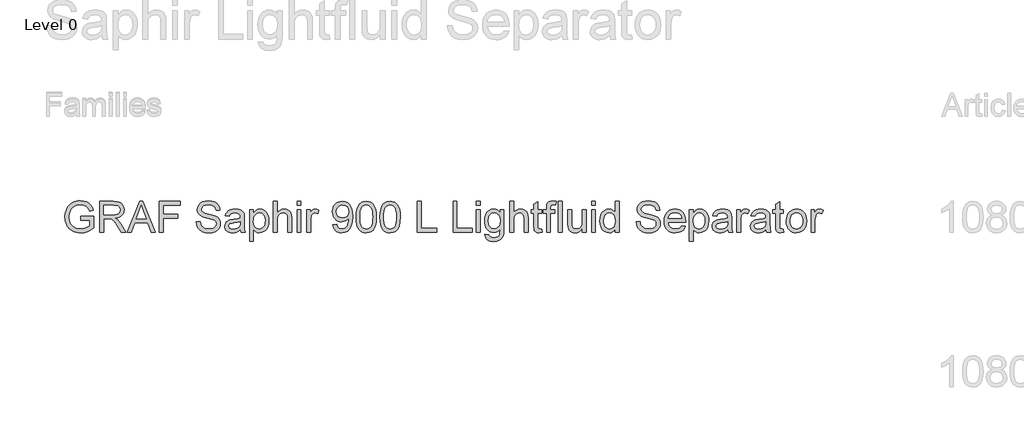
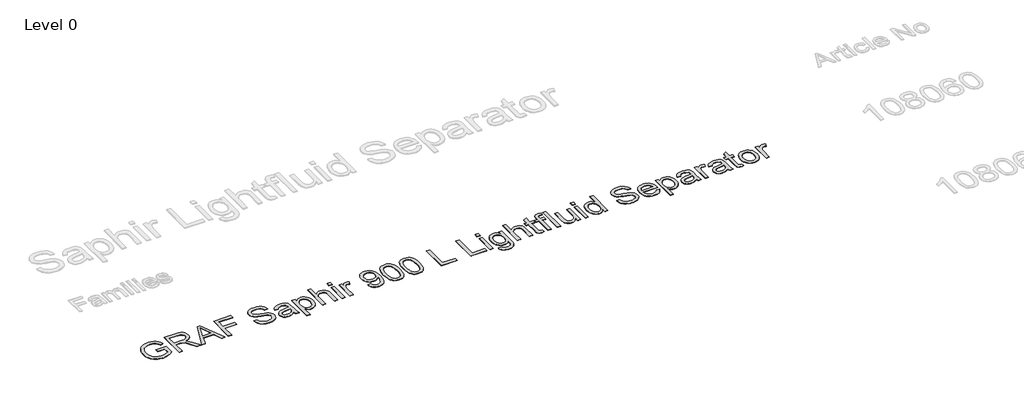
# One storey, part 6 of 9: 1 proxy.
"""IFC4 building model written with IfcOpenShell, lengths in millimetres."""

from ifc_helpers import new_model, si_unit, origin, origin_with_axes, place, context, project, spatial, polyline, outline, extrude, element, save

model = new_model("IFC4")

# Units and contexts
model_context = context("Model", 3, world=origin())
ifc_project = project(units=[si_unit("LENGTHUNIT", "METRE", prefix="MILLI")], contexts=[model_context])

# Site, building, storey
site = spatial("IfcSite", under=ifc_project)
building = spatial("IfcBuilding", under=site)
storey = spatial("IfcBuildingStorey", under=building, Name="Level 0", Elevation=0.0)

# Proxy
placement = place(None, origin())
element("IfcBuildingElementProxy", 1, Name="400mm Arial", ObjectType="400mm Arial", at=placement, inside=storey, context=model_context, shape_type="SweptSolid", body=[
    extrude(outline(polyline([(-14937.8149833, 10305.9861864), (-14937.8149833, 10356.2143415), (-14774.5734793, 10356.2143415), (-14774.5734793, 10206.0203856), (-14814.2434211, 10178.429236), (-14855.1641617, 10158.6371846), (-14897.2375993, 10146.717808), (-14940.3656318, 10142.7446824), (-14969.2167773, 10144.3235093), (-14996.7128907, 10149.05999), (-15022.8539722, 10156.9541245), (-15047.6400216, 10168.0059128), (-15070.2708957, 10182.0498079), (-15089.9464511, 10198.9202631), (-15106.6666877, 10218.6172783), (-15120.4316057, 10241.1408534), (-15131.182957, 10265.770553), (-15138.8624937, 10291.7859414), (-15143.4702157, 10319.1870187), (-15145.006123, 10347.9737848), (-15138.8870191, 10404.5662984), (-15131.2381393, 10431.3818302), (-15120.5297076, 10457.2102119), (-15106.9517963, 10480.9171408), (-15090.6944778, 10501.3683141), (-15071.7577521, 10518.5637317), (-15050.1416192, 10532.5033936), (-15026.3151286, 10543.2762047), (-15000.74733, 10550.9710698), (-14973.4382232, 10555.5879888), (-14944.3878083, 10557.1269618), (-14903.0133466, 10553.5585065), (-14865.8082141, 10542.8531404), (-14834.4769309, 10525.7834158), (-14810.7240167, 10503.1218849), (-14793.1515201, 10473.7771644), (-14780.3614894, 10436.6578711), (-14826.6655698, 10423.610323), (-14837.0030539, 10450.0855639), (-14849.5723554, 10470.0615563), (-14866.2006216, 10485.1201926), (-14888.7149997, 10496.8433655), (-14915.5581226, 10504.3849464), (-14945.1726232, 10506.8988067), (-14979.8393699, 10504.1887427), (-15009.478396, 10496.0585506), (-15033.9793369, 10483.5260373), (-15053.2318279, 10467.6090096), (-15068.0084214, 10449.1290708), (-15079.0816695, 10428.9078238), (-15090.8538933, 10390.9914528), (-15094.7779679, 10350.033924), (-15090.0568157, 10302.0007981), (-15075.8933588, 10262.4780091), (-15052.7167931, 10231.7475998), (-15020.9563142, 10210.091613), (-14983.78797, 10197.2525314), (-14944.3878083, 10192.9728375), (-14909.5984343, 10196.1979363), (-14875.6674516, 10205.8732328), (-14846.2001038, 10219.2028238), (-14824.8016344, 10233.390806), (-14824.8016344, 10305.9861864), (-14937.8149833, 10305.9861864)])), origin_with_axes(), (0.0, 0.0, 1.0), 5.0),
    extrude(outline(polyline([(-14692.9527273, 10149.0232018), (-14692.9527273, 10550.8484424), (-14519.8029349, 10550.8484424), (-14473.2658625, 10548.1383784), (-14439.4084563, 10540.0081863), (-14414.6622607, 10524.9986009), (-14395.4588206, 10501.6503569), (-14383.1347737, 10472.6980439), (-14379.0267581, 10440.8762513), (-14380.7282123, 10420.2380714), (-14385.832575, 10401.2921486), (-14394.3398462, 10384.0384831), (-14406.2500258, 10368.4770747), (-14421.716398, 10355.1045642), (-14440.892247, 10344.4175922), (-14463.7775727, 10336.4161588), (-14490.3723753, 10331.100264), (-14461.8247325, 10309.6159554), (-14421.1124584, 10257.9162724), (-14354.1088843, 10149.0232018), (-14412.4794942, 10149.0232018), (-14464.7677885, 10232.3116855), (-14502.5370066, 10287.4449339), (-14516.5778361, 10303.5213771), (-14529.0735612, 10313.4909791), (-14552.9613654, 10323.055911), (-14582.0976194, 10324.8217446), (-14642.7245723, 10324.8217446), (-14642.7245723, 10149.0232018), (-14692.9527273, 10149.0232018)]), holes=[polyline([(-14642.7245723, 10375.0498997), (-14530.2998345, 10375.0498997), (-14498.0120581, 10376.827996), (-14472.9592942, 10382.1622849), (-14454.0992106, 10391.4083857), (-14440.3894749, 10404.9219177), (-14432.0385536, 10421.268141), (-14429.2549132, 10439.0123159), (-14434.5646766, 10463.5132568), (-14450.493967, 10483.2562572), (-14462.6555327, 10490.8530204), (-14477.9011757, 10496.2792798), (-14517.6446939, 10500.6202873), (-14642.7245723, 10500.6202873), (-14642.7245723, 10375.0498997)])]), origin_with_axes(), (0.0, 0.0, 1.0), 5.0),
    extrude(outline(polyline([(-14337.9220765, 10149.0232018), (-14177.5255266, 10550.8484424), (-14134.7531133, 10550.8484424), (-13974.3565634, 10149.0232018), (-14027.4296726, 10149.0232018), (-14073.4394475, 10274.5935895), (-14238.9372943, 10274.5935895), (-14284.8489673, 10149.0232018), (-14337.9220765, 10149.0232018)]), holes=[polyline([(-14220.4941437, 10324.8217446), (-14091.7844963, 10324.8217446), (-14127.9840846, 10423.610323), (-14156.13932, 10500.6202873), (-14181.1552956, 10432.2432872), (-14220.4941437, 10324.8217446)])]), origin_with_axes(), (0.0, 0.0, 1.0), 5.0),
    extrude(outline(polyline([(-13920.6948431, 10149.0232018), (-13920.6948431, 10550.8484424), (-13650.7185095, 10550.8484424), (-13650.7185095, 10500.6202873), (-13870.466688, 10500.6202873), (-13870.466688, 10381.328419), (-13682.1111064, 10381.328419), (-13682.1111064, 10331.100264), (-13870.466688, 10331.100264), (-13870.466688, 10149.0232018), (-13920.6948431, 10149.0232018)])), origin_with_axes(), (0.0, 0.0, 1.0), 5.0),
    extrude(outline(polyline([(-13443.5273698, 10287.1506283), (-13393.2992148, 10287.1506283), (-13387.5357302, 10259.2774358), (-13377.112407, 10236.8734223), (-13360.8520228, 10219.0924592), (-13337.5773552, 10205.0884179), (-13309.1278143, 10196.0017326), (-13277.3428099, 10192.9728375), (-13249.3592528, 10195.2659686), (-13224.8583119, 10202.1453619), (-13205.0049469, 10213.034669), (-13190.9641174, 10227.3575413), (-13182.6131961, 10243.8018665), (-13179.8295557, 10261.0555321), (-13181.9142203, 10277.8677393), (-13188.1682143, 10292.3990781), (-13200.8724058, 10304.7967013), (-13222.3076634, 10315.2077618), (-13295.4426041, 10334.3866765), (-13343.4512044, 10347.0786053), (-13374.169351, 10359.1573975), (-13399.173064, 10376.0554438), (-13416.8927134, 10396.5342082), (-13427.4509267, 10420.1522323), (-13430.9703311, 10446.4680577), (-13426.6170608, 10475.8863545), (-13413.55725, 10503.3180886), (-13392.1342551, 10526.5682307), (-13362.6914328, 10543.4417516), (-13327.3502358, 10553.7056592), (-13288.2321169, 10557.1269618), (-13245.8521111, 10553.5462437), (-13208.769606, 10542.8040895), (-13178.3089768, 10525.1212282), (-13155.7945987, 10500.7183892), (-13141.5453027, 10471.1161513), (-13135.87992, 10437.8350935), (-13186.1080751, 10437.8350935), (-13195.3296504, 10467.8052134), (-13203.6928345, 10479.6632764), (-13214.557616, 10489.4366747), (-13244.6013123, 10502.5332737), (-13286.2700796, 10506.8988067), (-13328.9198656, 10502.5823247), (-13345.2231694, 10497.1867221), (-13358.178747, 10489.6328784), (-13375.1013187, 10470.5765911), (-13380.742176, 10447.9395856), (-13376.744525, 10428.6380436), (-13364.7515719, 10413.1134234), (-13336.4001328, 10399.2320095), (-13282.7384125, 10385.0562899), (-13227.3599095, 10371.5918089), (-13193.8581224, 10359.8441105), (-13165.2246405, 10341.621689), (-13145.2486482, 10319.1318364), (-13133.5132125, 10292.6198073), (-13129.6014006, 10262.3308563), (-13134.1018237, 10231.3674551), (-13147.6030929, 10202.2434638), (-13169.5533853, 10177.1784372), (-13199.4008778, 10158.39193), (-13235.2938978, 10146.6564943), (-13275.3807726, 10142.7446824), (-13324.5911208, 10146.9630626), (-13365.0949285, 10159.6182033), (-13397.3581794, 10180.7591553), (-13421.8468576, 10210.4349695), (-13437.5676815, 10246.5855069), (-13443.5273698, 10287.1506283)])), origin_with_axes(), (0.0, 0.0, 1.0), 5.0),
    extrude(outline(polyline([(-12872.1821059, 10186.6943181), (-12896.1802747, 10166.1174519), (-12920.889682, 10152.6529708), (-12946.8744136, 10145.2217545), (-12974.6985552, 10142.7446824), (-12997.0627148, 10144.2346045), (-13016.6738908, 10148.7043708), (-13033.5320833, 10156.1539812), (-13047.6372921, 10166.5834357), (-13058.7749195, 10179.3305469), (-13066.7303676, 10193.733127), (-13071.5036365, 10209.7911761), (-13073.0947262, 10227.5046941), (-13070.6912305, 10248.3268151), (-13063.4807434, 10267.2359496), (-13052.3584444, 10283.4227574), (-13038.219513, 10296.077898), (-13021.6035096, 10305.6428299), (-13003.0499943, 10312.5590114), (-12959.5908679, 10320.112855), (-12908.2345414, 10328.0591061), (-12872.4764115, 10337.3787834), (-12872.1821059, 10348.562396), (-12875.6401966, 10370.9786722), (-12886.0144689, 10385.6449011), (-12909.21556, 10396.5342082), (-12941.5401247, 10400.1639772), (-12971.4611936, 10397.7482188), (-12992.356891, 10390.5009435), (-13006.6061869, 10377.0977761), (-13016.5880517, 10356.2143415), (-13066.8162068, 10362.4928609), (-13058.0974035, 10389.9613832), (-13045.0866436, 10411.5437936), (-13026.5699165, 10428.0494324), (-13001.3332116, 10440.2876401), (-12970.4679122, 10447.8660092), (-12935.0654016, 10450.3921323), (-12901.1098934, 10448.1603148), (-12874.1931941, 10441.4648625), (-12853.8983707, 10431.3971586), (-12839.8084903, 10419.0485863), (-12830.4642876, 10403.7814835), (-12824.4064974, 10384.9581881), (-12821.9539508, 10341.0085524), (-12821.9539508, 10278.5176641), (-12819.4033023, 10191.2560549), (-12809.396912, 10149.0232018), (-12859.6250671, 10149.0232018), (-12867.6694201, 10166.4853339), (-12872.1821059, 10186.6943181)]), holes=[polyline([(-12872.1821059, 10287.1506283), (-12905.9291476, 10278.7874443), (-12953.2142467, 10271.7486354), (-12996.4281184, 10263.6061806), (-13007.6730447, 10258.0388997), (-13015.9994405, 10250.3624288), (-13021.1497884, 10241.1653789), (-13022.8665711, 10231.0363613), (-13019.1264375, 10216.1003523), (-13007.9060366, 10203.8621446), (-12989.4506232, 10195.6951643), (-12964.0054519, 10192.9728375), (-12937.0274389, 10195.9772071), (-12913.1886856, 10204.990316), (-12893.8626181, 10218.270856), (-12880.4226626, 10234.0775191), (-12874.4629742, 10250.3624288), (-12872.4764115, 10272.9258578), (-12872.1821059, 10287.1506283)])]), origin_with_axes(), (0.0, 0.0, 1.0), 5.0),
    extrude(outline(polyline([(-12752.8902376, 10036.0098529), (-12752.8902376, 10444.1136129), (-12702.6620825, 10444.1136129), (-12702.6620825, 10394.8664765), (-12686.279071, 10419.1589509), (-12667.9340221, 10436.5107183), (-12646.5478155, 10446.9217788), (-12621.0413305, 10450.3921323), (-12587.0735596, 10445.5360899), (-12557.3732199, 10430.9679629), (-12533.19111, 10407.570668), (-12515.7780289, 10376.227122), (-12505.2566039, 10339.2181933), (-12501.7494622, 10298.8247503), (-12505.710325, 10255.868396), (-12517.5929134, 10217.4492529), (-12537.0170828, 10185.5170957), (-12563.6026883, 10162.021699), (-12594.5660896, 10147.5639366), (-12627.1236461, 10142.7446824), (-12650.2143727, 10145.9697813), (-12670.8280272, 10155.6450777), (-12688.4741002, 10170.2499929), (-12702.6620825, 10188.263948), (-12702.6620825, 10036.0098529), (-12752.8902376, 10036.0098529)]), holes=[polyline([(-12702.6620825, 10294.2139626), (-12697.2296917, 10249.1852064), (-12690.4392032, 10231.7475998), (-12680.9325193, 10217.6945076), (-12656.8852996, 10199.153255), (-12643.1234473, 10194.5179419), (-12628.2027667, 10192.9728375), (-12613.0674882, 10194.5731242), (-12599.0542499, 10199.3739842), (-12586.1630517, 10207.3754176), (-12574.3938935, 10218.5774244), (-12564.5867726, 10233.13942), (-12557.5816863, 10251.2208201), (-12553.3786345, 10272.8216246), (-12551.9776173, 10297.9418335), (-12557.4467963, 10342.725335), (-12564.28327, 10360.2978317), (-12573.8543332, 10374.6574922), (-12597.8647648, 10393.7873559), (-12611.4702673, 10398.5698219), (-12626.1426275, 10400.1639772), (-12640.7690025, 10398.4686543), (-12654.5308548, 10393.3826858), (-12679.4609913, 10373.0388114), (-12689.6114687, 10357.9403212), (-12696.8618097, 10339.7700163), (-12701.2120143, 10318.5278968), (-12702.6620825, 10294.2139626)])]), origin_with_axes(), (0.0, 0.0, 1.0), 5.0),
    extrude(outline(polyline([(-12445.2427877, 10149.0232018), (-12445.2427877, 10550.8484424), (-12395.0146327, 10550.8484424), (-12395.0146327, 10403.1070332), (-12376.5653506, 10423.794264), (-12355.8474629, 10438.5708575), (-12332.8609696, 10447.4368136), (-12307.6058706, 10450.3921323), (-12277.2678687, 10447.1670334), (-12251.197298, 10437.491737), (-12230.6694827, 10422.1265323), (-12216.959747, 10401.8317089), (-12209.2342251, 10373.9462537), (-12206.6590511, 10335.8091535), (-12206.6590511, 10149.0232018), (-12256.8872062, 10149.0232018), (-12256.8872062, 10330.6097546), (-12260.8848572, 10362.0514025), (-12272.8778103, 10383.5847619), (-12292.2038777, 10396.0191734), (-12318.2008721, 10400.1639772), (-12339.4276632, 10397.368074), (-12359.3546046, 10388.9803645), (-12375.8602434, 10375.8101891), (-12386.8231269, 10358.6668881), (-12392.9667562, 10335.8827299), (-12395.0146327, 10305.7899827), (-12395.0146327, 10149.0232018), (-12445.2427877, 10149.0232018)])), origin_with_axes(), (0.0, 0.0, 1.0), 5.0),
    extrude(outline(polyline([(-12137.5953379, 10500.6202873), (-12137.5953379, 10550.8484424), (-12087.3671828, 10550.8484424), (-12087.3671828, 10500.6202873), (-12137.5953379, 10500.6202873)])), origin_with_axes(), (0.0, 0.0, 1.0), 5.0),
    extrude(outline(polyline([(-12137.5953379, 10149.0232018), (-12137.5953379, 10444.1136129), (-12087.3671828, 10444.1136129), (-12087.3671828, 10149.0232018), (-12137.5953379, 10149.0232018)])), origin_with_axes(), (0.0, 0.0, 1.0), 5.0),
    extrude(outline(polyline([(-12012.0249502, 10149.0232018), (-12012.0249502, 10444.1136129), (-11968.0753145, 10444.1136129), (-11968.0753145, 10400.4582828), (-11951.8394558, 10425.7685641), (-11936.8789213, 10440.6800476), (-11921.8693359, 10447.9641111), (-11905.4863244, 10450.3921323), (-11880.4703487, 10446.5171086), (-11855.0619656, 10434.8920375), (-11871.8373846, 10389.8632813), (-11889.4957204, 10397.5888032), (-11907.1540561, 10400.1639772), (-11922.1513788, 10397.6869051), (-11935.5545461, 10390.2556888), (-11946.3825395, 10378.434414), (-11953.6543403, 10362.7871665), (-11959.7611814, 10334.730033), (-11961.7967951, 10304.122251), (-11961.7967951, 10149.0232018), (-12012.0249502, 10149.0232018)])), origin_with_axes(), (0.0, 0.0, 1.0), 5.0),
    extrude(outline(polyline([(-11672.9849035, 10249.479512), (-11622.7567484, 10255.7580314), (-11614.1728352, 10227.2471767), (-11600.1933193, 10207.8352701), (-11581.1615575, 10196.6884457), (-11557.420906, 10192.9728375), (-11536.1205385, 10195.3640705), (-11516.7576828, 10202.5377694), (-11500.6689769, 10213.7091193), (-11489.1910587, 10228.0933053), (-11472.7589962, 10271.7486354), (-11467.3143427, 10300.1491254), (-11465.4994582, 10330.0211434), (-11465.7937638, 10339.83133), (-11483.1945821, 10318.5922761), (-11505.9664776, 10301.7678062), (-11532.466244, 10290.8049228), (-11561.0506751, 10287.1506283), (-11584.9108881, 10289.3824457), (-11606.8519835, 10296.077898), (-11626.873961, 10307.2369852), (-11644.9768209, 10322.8597073), (-11659.9772092, 10342.1305925), (-11670.6917724, 10364.234169), (-11677.1205102, 10389.1704369), (-11679.2634228, 10416.9393962), (-11677.016277, 10445.6341918), (-11670.2748394, 10471.3859315), (-11659.0391102, 10494.1946152), (-11643.3090892, 10514.0602429), (-11624.1945538, 10530.1550802), (-11602.8052815, 10541.6513925), (-11579.1412722, 10548.54918), (-11553.2025258, 10550.8484424), (-11515.739876, 10545.5999926), (-11481.637215, 10529.8546432), (-11453.1140977, 10504.3972092), (-11432.3900786, 10470.0125053), (-11419.7717262, 10422.4821516), (-11415.5656087, 10357.5877676), (-11419.7594634, 10288.7815718), (-11432.3410277, 10235.598098), (-11453.1999368, 10195.6338506), (-11466.692009, 10179.7076259), (-11482.2258262, 10166.4853339), (-11499.4886888, 10156.0987989), (-11518.1678972, 10148.6798453), (-11559.7753508, 10142.7446824), (-11582.3326485, 10144.4951876), (-11602.7194424, 10149.7467031), (-11620.9357325, 10158.4992289), (-11636.9815189, 10170.752765), (-11650.4521313, 10186.1762177), (-11660.9428995, 10204.438493), (-11668.4538235, 10225.5395911), (-11672.9849035, 10249.479512)]), holes=[polyline([(-11465.7937638, 10418.1166186), (-11471.2138918, 10452.1579658), (-11477.9890519, 10466.2355835), (-11487.474276, 10478.3511639), (-11499.2035803, 10488.0939054), (-11512.7109809, 10495.0530065), (-11545.060071, 10500.6202873), (-11562.6693558, 10499.1211682), (-11578.610909, 10494.6238108), (-11592.8847304, 10487.1282152), (-11605.4908201, 10476.6343813), (-11615.7915159, 10463.7554457), (-11623.1491558, 10449.1045453), (-11627.5637398, 10432.6816799), (-11629.0352678, 10414.4868495), (-11623.4679869, 10383.4498719), (-11616.5088858, 10370.3318131), (-11606.7661443, 10358.8140409), (-11594.6444326, 10349.4361157), (-11580.5484208, 10342.7375977), (-11546.4334971, 10337.3787834), (-11514.3419244, 10342.7375977), (-11488.5043456, 10358.8140409), (-11478.5684661, 10370.5586736), (-11471.4714092, 10384.3573141), (-11465.7937638, 10418.1166186)])]), origin_with_axes(), (0.0, 0.0, 1.0), 5.0),
    extrude(outline(polyline([(-11371.615973, 10346.6984606), (-11367.9248903, 10411.0164961), (-11356.8516423, 10462.3115089), (-11338.5065934, 10501.3683141), (-11326.6485305, 10516.6016944), (-11313.0001084, 10528.9717264), (-11297.5153421, 10538.5427897), (-11280.1482463, 10545.3792634), (-11239.7670659, 10550.8484424), (-11208.8159274, 10547.6110809), (-11181.1021504, 10537.8989962), (-11157.9255847, 10522.0923331), (-11140.58608, 10500.5712364), (-11127.489481, 10473.519647), (-11117.0416323, 10441.121506), (-11110.1990272, 10399.9800362), (-11107.9181589, 10346.6984606), (-11111.5724533, 10282.7483071), (-11122.5353368, 10231.5759215), (-11140.770021, 10192.4823282), (-11152.6004929, 10177.2029627), (-11166.2397178, 10164.7685512), (-11181.7428782, 10155.1331086), (-11199.1651564, 10148.2506496), (-11239.7670659, 10142.7446824), (-11267.431792, 10145.1359154), (-11291.9572583, 10152.3096143), (-11313.343465, 10164.2657792), (-11331.5904119, 10181.0044099), (-11349.1015949, 10211.262704), (-11361.6095827, 10248.9644772), (-11369.1143754, 10294.1097294), (-11371.615973, 10346.6984606)]), holes=[polyline([(-11321.3878179, 10346.7965624), (-11319.91629, 10303.1320353), (-11315.501706, 10267.7877726), (-11308.1440661, 10240.7637744), (-11297.8433702, 10222.0600406), (-11285.3844333, 10209.3343892), (-11271.5520703, 10200.2446383), (-11256.3462812, 10194.7907877), (-11239.7670659, 10192.9728375), (-11223.1878507, 10194.7969191), (-11207.9820616, 10200.2691637), (-11194.1496985, 10209.3895715), (-11181.6907616, 10222.1581425), (-11171.3900658, 10240.8925331), (-11164.0324259, 10267.9103999), (-11159.6178419, 10303.2117431), (-11158.1463139, 10346.7965624), (-11159.568791, 10389.305327), (-11163.8362221, 10424.0272559), (-11170.9486074, 10450.9623494), (-11180.9059467, 10470.1106072), (-11193.1564171, 10483.4585923), (-11207.1481957, 10492.9928673), (-11222.8812824, 10498.7134323), (-11240.3556771, 10500.6202873), (-11256.8490532, 10498.9402929), (-11271.797325, 10493.9003096), (-11285.2004923, 10485.5003373), (-11297.0585553, 10473.7403762), (-11307.7026077, 10452.8937298), (-11315.3055023, 10424.7875454), (-11319.867239, 10389.4218229), (-11321.3878179, 10346.7965624)])]), origin_with_axes(), (0.0, 0.0, 1.0), 5.0),
    extrude(outline(polyline([(-11063.9685232, 10346.6984606), (-11060.2774405, 10411.0164961), (-11049.2041924, 10462.3115089), (-11030.8591436, 10501.3683141), (-11019.0010806, 10516.6016944), (-11005.3526586, 10528.9717264), (-10989.8678923, 10538.5427897), (-10972.5007964, 10545.3792634), (-10932.1196161, 10550.8484424), (-10901.1684776, 10547.6110809), (-10873.4547006, 10537.8989962), (-10850.2781349, 10522.0923331), (-10832.9386302, 10500.5712364), (-10819.8420312, 10473.519647), (-10809.3941825, 10441.121506), (-10802.5515774, 10399.9800362), (-10800.270709, 10346.6984606), (-10803.9250035, 10282.7483071), (-10814.887887, 10231.5759215), (-10833.1225712, 10192.4823282), (-10844.953043, 10177.2029627), (-10858.592268, 10164.7685512), (-10874.0954284, 10155.1331086), (-10891.5177066, 10148.2506496), (-10932.1196161, 10142.7446824), (-10959.7843421, 10145.1359154), (-10984.3098085, 10152.3096143), (-11005.6960151, 10164.2657792), (-11023.9429621, 10181.0044099), (-11041.4541451, 10211.262704), (-11053.9621329, 10248.9644772), (-11061.4669256, 10294.1097294), (-11063.9685232, 10346.6984606)]), holes=[polyline([(-11013.7403681, 10346.7965624), (-11012.2688401, 10303.1320353), (-11007.8542562, 10267.7877726), (-11000.4966163, 10240.7637744), (-10990.1959204, 10222.0600406), (-10977.7369835, 10209.3343892), (-10963.9046205, 10200.2446383), (-10948.6988314, 10194.7907877), (-10932.1196161, 10192.9728375), (-10915.5404009, 10194.7969191), (-10900.3346117, 10200.2691637), (-10886.5022487, 10209.3895715), (-10874.0433118, 10222.1581425), (-10863.7426159, 10240.8925331), (-10856.384976, 10267.9103999), (-10851.9703921, 10303.2117431), (-10850.4988641, 10346.7965624), (-10851.9213412, 10389.305327), (-10856.1887723, 10424.0272559), (-10863.3011575, 10450.9623494), (-10873.2584969, 10470.1106072), (-10885.5089673, 10483.4585923), (-10899.5007459, 10492.9928673), (-10915.2338325, 10498.7134323), (-10932.7082273, 10500.6202873), (-10949.2016034, 10498.9402929), (-10964.1498751, 10493.9003096), (-10977.5530425, 10485.5003373), (-10989.4111055, 10473.7403762), (-11000.0551579, 10452.8937298), (-11007.6580524, 10424.7875454), (-11012.2197892, 10389.4218229), (-11013.7403681, 10346.7965624)])]), origin_with_axes(), (0.0, 0.0, 1.0), 5.0),
    extrude(outline(polyline([(-10580.5225306, 10149.0232018), (-10580.5225306, 10550.8484424), (-10530.2943755, 10550.8484424), (-10530.2943755, 10199.2513569), (-10329.3817552, 10199.2513569), (-10329.3817552, 10149.0232018), (-10580.5225306, 10149.0232018)])), origin_with_axes(), (0.0, 0.0, 1.0), 5.0),
    extrude(outline(polyline([(-10115.9120961, 10149.0232018), (-10115.9120961, 10550.8484424), (-10065.6839411, 10550.8484424), (-10065.6839411, 10199.2513569), (-9864.7713208, 10199.2513569), (-9864.7713208, 10149.0232018), (-10115.9120961, 10149.0232018)])), origin_with_axes(), (0.0, 0.0, 1.0), 5.0),
    extrude(outline(polyline([(-9814.5431657, 10500.6202873), (-9814.5431657, 10550.8484424), (-9764.3150106, 10550.8484424), (-9764.3150106, 10500.6202873), (-9814.5431657, 10500.6202873)])), origin_with_axes(), (0.0, 0.0, 1.0), 5.0),
    extrude(outline(polyline([(-9814.5431657, 10149.0232018), (-9814.5431657, 10444.1136129), (-9764.3150106, 10444.1136129), (-9764.3150106, 10149.0232018), (-9814.5431657, 10149.0232018)])), origin_with_axes(), (0.0, 0.0, 1.0), 5.0),
    extrude(outline(polyline([(-9701.5298168, 10123.9091243), (-9651.3016617, 10117.6306049), (-9645.7589063, 10101.9343064), (-9635.016752, 10091.1431012), (-9613.9003255, 10082.7553918), (-9586.2601249, 10079.9594886), (-9556.7805144, 10083.1232738), (-9534.8547475, 10092.6146292), (-9519.6489584, 10107.8204184), (-9510.3292811, 10128.1275045), (-9506.8957159, 10186.6943181), (-9523.6098212, 10170.2132047), (-9542.2614383, 10158.4409809), (-9562.8505673, 10151.3776466), (-9585.3772082, 10149.0232018), (-9612.9162412, 10151.7639227), (-9637.1627303, 10159.9860853), (-9658.1166757, 10173.6896896), (-9675.7780771, 10192.8747356), (-9689.7913154, 10215.8918858), (-9699.8007714, 10241.0918025), (-9705.806445, 10268.4744857), (-9707.8083362, 10298.0399353), (-9704.2153553, 10338.5927939), (-9693.4364129, 10375.8837655), (-9675.8516535, 10407.4848289), (-9651.841222, 10430.9679629), (-9622.2267213, 10445.5360899), (-9587.8297548, 10450.3921323), (-9564.3404894, 10447.64528), (-9543.0217278, 10439.4047233), (-9523.8734699, 10425.6704622), (-9506.8957159, 10406.4424966), (-9506.8957159, 10444.1136129), (-9456.6675608, 10444.1136129), (-9456.6675608, 10189.3430685), (-9460.1011261, 10130.5187375), (-9470.4018219, 10091.7807634), (-9488.1459968, 10066.0903374), (-9513.9099992, 10046.4086506), (-9547.1297434, 10033.9006628), (-9587.2411436, 10029.7313335), (-9611.8493834, 10031.1997958), (-9633.9744197, 10035.6051827), (-9653.6162526, 10042.9474942), (-9670.774882, 10053.2267303), (-9684.6348361, 10066.4551537), (-9694.3806433, 10082.6450272), (-9700.0123035, 10101.7963507), (-9701.5298168, 10123.9091243)]), holes=[polyline([(-9657.5801811, 10301.4735006), (-9652.2213667, 10255.4024121), (-9645.5228487, 10237.7655361), (-9636.1449235, 10223.7277723), (-9624.7436473, 10213.0193406), (-9611.9750764, 10205.3704607), (-9597.8392107, 10200.7811329), (-9582.3360503, 10199.2513569), (-9566.9861741, 10200.7719358), (-9552.9177535, 10205.3336726), (-9540.1307884, 10212.9365671), (-9528.625279, 10223.5806195), (-9519.1185951, 10237.4804276), (-9512.3281067, 10254.8505891), (-9506.8957159, 10300.0019726), (-9512.4875222, 10343.5469381), (-9519.4772801, 10360.7484871), (-9529.2629412, 10374.9027469), (-9541.0167709, 10385.9545351), (-9553.9110348, 10393.8486696), (-9567.945733, 10398.5851503), (-9583.1208653, 10400.1639772), (-9598.0415458, 10398.6096758), (-9611.8033981, 10393.9467715), (-9635.8506179, 10375.2951543), (-9645.3573018, 10361.3554924), (-9652.1477903, 10344.4053295), (-9657.5801811, 10301.4735006)])]), origin_with_axes(), (0.0, 0.0, 1.0), 5.0),
    extrude(outline(polyline([(-9381.3253282, 10149.0232018), (-9381.3253282, 10550.8484424), (-9331.0971731, 10550.8484424), (-9331.0971731, 10403.1070332), (-9312.647891, 10423.794264), (-9291.9300033, 10438.5708575), (-9268.94351, 10447.4368136), (-9243.688411, 10450.3921323), (-9213.3504092, 10447.1670334), (-9187.2798384, 10437.491737), (-9166.7520231, 10422.1265323), (-9153.0422874, 10401.8317089), (-9145.3167655, 10373.9462537), (-9142.7415916, 10335.8091535), (-9142.7415916, 10149.0232018), (-9192.9697466, 10149.0232018), (-9192.9697466, 10330.6097546), (-9196.9673977, 10362.0514025), (-9208.9603507, 10383.5847619), (-9228.2864182, 10396.0191734), (-9254.2834125, 10400.1639772), (-9275.5102036, 10397.368074), (-9295.437145, 10388.9803645), (-9311.9427839, 10375.8101891), (-9322.9056673, 10358.6668881), (-9329.0492967, 10335.8827299), (-9331.0971731, 10305.7899827), (-9331.0971731, 10149.0232018), (-9381.3253282, 10149.0232018)])), origin_with_axes(), (0.0, 0.0, 1.0), 5.0),
    extrude(outline(polyline([(-8966.9430488, 10190.9126983), (-8960.6645294, 10147.5516738), (-8998.2375439, 10142.7446824), (-9022.3460773, 10144.8293471), (-9040.3232441, 10151.083341), (-9053.0274357, 10160.7218493), (-9061.3170433, 10172.960057), (-9065.87878, 10193.9783816), (-9067.399359, 10229.9572408), (-9067.399359, 10393.8854578), (-9105.0704753, 10393.8854578), (-9105.0704753, 10444.1136129), (-9067.399359, 10444.1136129), (-9067.399359, 10515.8260765), (-9017.1712039, 10545.354738), (-9017.1712039, 10444.1136129), (-8966.9430488, 10444.1136129), (-8966.9430488, 10393.8854578), (-9017.1712039, 10393.8854578), (-9017.1712039, 10231.4287687), (-9014.5224535, 10205.5298763), (-9005.9385403, 10196.3573519), (-8988.8197648, 10192.9728375), (-8966.9430488, 10190.9126983)])), origin_with_axes(), (0.0, 0.0, 1.0), 5.0),
    extrude(outline(polyline([(-8904.157855, 10149.0232018), (-8904.157855, 10393.8854578), (-8948.1074906, 10393.8854578), (-8948.1074906, 10444.1136129), (-8904.157855, 10444.1136129), (-8904.157855, 10473.8384781), (-8902.8334798, 10498.4375208), (-8898.8603542, 10515.7279746), (-8888.7558621, 10532.4298172), (-8873.1576655, 10545.6490436), (-8851.3300004, 10554.2574822), (-8822.537103, 10557.1269618), (-8776.7235318, 10551.6332573), (-8784.0811717, 10504.544362), (-8813.021222, 10506.8988067), (-8832.1142976, 10504.8141421), (-8844.6590736, 10498.5601482), (-8851.6120433, 10486.6162461), (-8853.9296999, 10467.4618568), (-8853.9296999, 10444.1136129), (-8797.4230254, 10444.1136129), (-8797.4230254, 10393.8854578), (-8853.9296999, 10393.8854578), (-8853.9296999, 10149.0232018), (-8904.157855, 10149.0232018)])), origin_with_axes(), (0.0, 0.0, 1.0), 5.0),
    extrude(outline(polyline([(-8753.4733897, 10149.0232018), (-8753.4733897, 10550.8484424), (-8703.2452347, 10550.8484424), (-8703.2452347, 10149.0232018), (-8753.4733897, 10149.0232018)])), origin_with_axes(), (0.0, 0.0, 1.0), 5.0),
    extrude(outline(polyline([(-8439.5474205, 10149.0232018), (-8439.5474205, 10199.7418662), (-8457.7207911, 10174.8055983), (-8478.8862685, 10156.9939784), (-8503.0438529, 10146.3070064), (-8530.1935441, 10142.7446824), (-8554.6576968, 10145.24628), (-8577.4295923, 10152.7510727), (-8596.5349306, 10164.0327872), (-8609.9994116, 10177.8651502), (-8619.0615714, 10194.6650947), (-8624.9599461, 10214.8495535), (-8627.903002, 10261.5460414), (-8627.903002, 10444.1136129), (-8577.674847, 10444.1136129), (-8577.674847, 10285.188591), (-8574.6336891, 10233.9794172), (-8567.3128374, 10216.8974299), (-8554.7680614, 10203.9111955), (-8537.8332269, 10195.707427), (-8517.3421998, 10192.9728375), (-8495.6739502, 10195.7687407), (-8475.4036523, 10204.1564502), (-8458.689547, 10217.3634138), (-8447.6898753, 10234.6170794), (-8441.5830342, 10258.2473662), (-8439.5474205, 10290.5841936), (-8439.5474205, 10444.1136129), (-8389.3192654, 10444.1136129), (-8389.3192654, 10149.0232018), (-8439.5474205, 10149.0232018)])), origin_with_axes(), (0.0, 0.0, 1.0), 5.0),
    extrude(outline(polyline([(-8320.2555522, 10500.6202873), (-8320.2555522, 10550.8484424), (-8270.0273971, 10550.8484424), (-8270.0273971, 10500.6202873), (-8320.2555522, 10500.6202873)])), origin_with_axes(), (0.0, 0.0, 1.0), 5.0),
    extrude(outline(polyline([(-8320.2555522, 10149.0232018), (-8320.2555522, 10444.1136129), (-8270.0273971, 10444.1136129), (-8270.0273971, 10149.0232018), (-8320.2555522, 10149.0232018)])), origin_with_axes(), (0.0, 0.0, 1.0), 5.0),
    extrude(outline(polyline([(-8012.6081024, 10149.0232018), (-8012.6081024, 10196.4064028), (-8027.6360819, 10172.9294001), (-8045.8401093, 10156.1601125), (-8067.2201846, 10146.09854), (-8091.7763077, 10142.7446824), (-8124.2480252, 10147.6007248), (-8153.9728904, 10162.1688518), (-8179.1360189, 10185.4312566), (-8197.9225261, 10216.3701324), (-8209.6211735, 10253.7346804), (-8213.5207227, 10296.2741018), (-8209.9277419, 10338.2862256), (-8199.1487994, 10376.227122), (-8181.196158, 10407.93855), (-8156.0820805, 10431.2622685), (-8125.7072904, 10445.6096663), (-8091.9725115, 10450.3921323), (-8067.3979942, 10446.9708297), (-8045.668431, 10436.7069221), (-8027.2498058, 10420.9738354), (-8012.6081024, 10401.1449958), (-8012.6081024, 10550.8484424), (-7962.3799473, 10550.8484424), (-7962.3799473, 10149.0232018), (-8012.6081024, 10149.0232018)]), holes=[polyline([(-8163.2925676, 10296.4703055), (-8161.8762219, 10272.1134517), (-8157.6271849, 10251.0368791), (-8150.5454565, 10233.2405876), (-8140.6310367, 10218.7245772), (-8115.9338921, 10199.4107724), (-8102.0586095, 10194.5823212), (-8087.1655201, 10192.9728375), (-8072.2019199, 10194.5087448), (-8058.4094108, 10199.1164668), (-8034.3376656, 10217.5473548), (-8024.8309817, 10231.4563599), (-8018.0404932, 10248.6088579), (-8012.6081024, 10292.6443327), (-8018.138595, 10340.7878232), (-8025.0517109, 10359.3229444), (-8034.730073, 10374.1669829), (-8046.4317862, 10385.5406679), (-8059.4149549, 10393.6647286), (-8073.6795793, 10398.5391651), (-8089.2256592, 10400.1639772), (-8104.4130543, 10398.6035444), (-8118.2883369, 10393.922246), (-8130.851507, 10386.120082), (-8142.1025647, 10375.1970525), (-8151.373191, 10360.914034), (-8157.9950669, 10343.0319033), (-8163.2925676, 10296.4703055)])]), origin_with_axes(), (0.0, 0.0, 1.0), 5.0),
    extrude(outline(polyline([(-7742.6317689, 10287.1506283), (-7692.4036138, 10287.1506283), (-7686.6401292, 10259.2774358), (-7676.216806, 10236.8734223), (-7659.9564218, 10219.0924592), (-7636.6817542, 10205.0884179), (-7608.2322133, 10196.0017326), (-7576.4472089, 10192.9728375), (-7548.4636518, 10195.2659686), (-7523.9627109, 10202.1453619), (-7504.1093459, 10213.034669), (-7490.0685164, 10227.3575413), (-7481.7175951, 10243.8018665), (-7478.9339547, 10261.0555321), (-7481.0186193, 10277.8677393), (-7487.2726133, 10292.3990781), (-7499.9768048, 10304.7967013), (-7521.4120624, 10315.2077618), (-7594.5470031, 10334.3866765), (-7642.5556034, 10347.0786053), (-7673.27375, 10359.1573975), (-7698.277463, 10376.0554438), (-7715.9971124, 10396.5342082), (-7726.5553257, 10420.1522323), (-7730.0747301, 10446.4680577), (-7725.7214598, 10475.8863545), (-7712.661649, 10503.3180886), (-7691.2386541, 10526.5682307), (-7661.7958318, 10543.4417516), (-7626.4546348, 10553.7056592), (-7587.336516, 10557.1269618), (-7544.9565101, 10553.5462437), (-7507.874005, 10542.8040895), (-7477.4133758, 10525.1212282), (-7454.8989977, 10500.7183892), (-7440.6497017, 10471.1161513), (-7434.984319, 10437.8350935), (-7485.2124741, 10437.8350935), (-7494.4340494, 10467.8052134), (-7502.7972335, 10479.6632764), (-7513.6620151, 10489.4366747), (-7543.7057113, 10502.5332737), (-7585.3744786, 10506.8988067), (-7628.0242646, 10502.5823247), (-7644.3275684, 10497.1867221), (-7657.283146, 10489.6328784), (-7674.2057177, 10470.5765911), (-7679.846575, 10447.9395856), (-7675.848924, 10428.6380436), (-7663.855971, 10413.1134234), (-7635.5045319, 10399.2320095), (-7581.8428115, 10385.0562899), (-7526.4643085, 10371.5918089), (-7492.9625215, 10359.8441105), (-7464.3290395, 10341.621689), (-7444.3530472, 10319.1318364), (-7432.6176115, 10292.6198073), (-7428.7057996, 10262.3308563), (-7433.2062227, 10231.3674551), (-7446.7074919, 10202.2434638), (-7468.6577843, 10177.1784372), (-7498.5052769, 10158.39193), (-7534.3982968, 10146.6564943), (-7574.4851716, 10142.7446824), (-7623.6955198, 10146.9630626), (-7664.1993275, 10159.6182033), (-7696.4625785, 10180.7591553), (-7720.9512566, 10210.4349695), (-7736.6720805, 10246.5855069), (-7742.6317689, 10287.1506283)])), origin_with_axes(), (0.0, 0.0, 1.0), 5.0),
    extrude(outline(polyline([(-7153.0395579, 10236.9224732), (-7103.7924215, 10230.6439538), (-7111.3431994, 10210.9193475), (-7121.5365964, 10193.5369232), (-7134.3726123, 10178.496681), (-7149.8512473, 10165.7986208), (-7167.8130857, 10155.7125228), (-7188.0987121, 10148.508167), (-7235.6413286, 10142.7446824), (-7266.8070649, 10145.2309516), (-7294.5760242, 10152.689759), (-7318.9482064, 10165.1211048), (-7339.9236115, 10182.5249888), (-7356.7910009, 10204.4170332), (-7368.8391363, 10230.31286), (-7376.0680175, 10260.2124692), (-7378.4776446, 10294.1158607), (-7376.043492, 10329.1688835), (-7368.7410344, 10360.0648397), (-7356.5702717, 10386.8037294), (-7339.531204, 10409.3855525), (-7318.6109812, 10427.3259312), (-7294.7967534, 10440.1404873), (-7268.0885205, 10447.829221), (-7238.4862827, 10450.3921323), (-7209.8374723, 10447.8353524), (-7183.9293828, 10440.1650128), (-7160.7620141, 10427.3811135), (-7140.3353663, 10409.4836544), (-7123.6611149, 10386.9508822), (-7111.7509353, 10360.2610435), (-7104.6048276, 10329.4141382), (-7102.2227916, 10294.4101663), (-7102.5170972, 10280.8721089), (-7328.2494895, 10280.8721089), (-7325.340156, 10260.8286715), (-7319.5552117, 10243.274569), (-7310.8946564, 10228.2098013), (-7299.3584901, 10215.6343684), (-7285.5843751, 10205.7199486), (-7270.2099734, 10198.6382202), (-7234.6603099, 10192.9728375), (-7207.9275516, 10195.5970624), (-7185.4131735, 10203.4697371), (-7167.1171756, 10217.0813709), (-7153.0395579, 10236.9224732)]), holes=[polyline([(-7328.2494895, 10331.100264), (-7152.4509467, 10331.100264), (-7159.2445009, 10357.6368186), (-7172.5618291, 10376.6195295), (-7186.2593021, 10386.9202254), (-7201.8452359, 10394.2778653), (-7219.3196307, 10398.6924492), (-7238.6824864, 10400.1639772), (-7272.5398927, 10395.4673504), (-7300.5357125, 10381.37747), (-7319.9966701, 10359.4149149), (-7328.2494895, 10331.100264)])]), origin_with_axes(), (0.0, 0.0, 1.0), 5.0),
    extrude(outline(polyline([(-7051.9946366, 10036.0098529), (-7051.9946366, 10444.1136129), (-7001.7664815, 10444.1136129), (-7001.7664815, 10394.8664765), (-6985.38347, 10419.1589509), (-6967.0384212, 10436.5107183), (-6945.6522145, 10446.9217788), (-6920.1457295, 10450.3921323), (-6886.1779586, 10445.5360899), (-6856.4776189, 10430.9679629), (-6832.2955091, 10407.570668), (-6814.8824279, 10376.227122), (-6804.3610029, 10339.2181933), (-6800.8538612, 10298.8247503), (-6804.814724, 10255.868396), (-6816.6973125, 10217.4492529), (-6836.1214818, 10185.5170957), (-6862.7070873, 10162.021699), (-6893.6704886, 10147.5639366), (-6926.2280452, 10142.7446824), (-6949.3187717, 10145.9697813), (-6969.9324262, 10155.6450777), (-6987.5784992, 10170.2499929), (-7001.7664815, 10188.263948), (-7001.7664815, 10036.0098529), (-7051.9946366, 10036.0098529)]), holes=[polyline([(-7001.7664815, 10294.2139626), (-6996.3340907, 10249.1852064), (-6989.5436022, 10231.7475998), (-6980.0369183, 10217.6945076), (-6955.9896986, 10199.153255), (-6942.2278463, 10194.5179419), (-6927.3071657, 10192.9728375), (-6912.1718873, 10194.5731242), (-6898.1586489, 10199.3739842), (-6885.2674507, 10207.3754176), (-6873.4982925, 10218.5774244), (-6863.6911717, 10233.13942), (-6856.6860853, 10251.2208201), (-6852.4830335, 10272.8216246), (-6851.0820163, 10297.9418335), (-6856.5511953, 10342.725335), (-6863.387669, 10360.2978317), (-6872.9587323, 10374.6574922), (-6896.9691638, 10393.7873559), (-6910.5746663, 10398.5698219), (-6925.2470265, 10400.1639772), (-6939.8734015, 10398.4686543), (-6953.6352538, 10393.3826858), (-6978.5653903, 10373.0388114), (-6988.7158677, 10357.9403212), (-6995.9662087, 10339.7700163), (-7000.3164133, 10318.5278968), (-7001.7664815, 10294.2139626)])]), origin_with_axes(), (0.0, 0.0, 1.0), 5.0),
    extrude(outline(polyline([(-6555.9916052, 10186.6943181), (-6579.989774, 10166.1174519), (-6604.6991814, 10152.6529708), (-6630.683913, 10145.2217545), (-6658.5080545, 10142.7446824), (-6680.8722142, 10144.2346045), (-6700.4833902, 10148.7043708), (-6717.3415826, 10156.1539812), (-6731.4467914, 10166.5834357), (-6742.5844188, 10179.3305469), (-6750.539867, 10193.733127), (-6755.3131359, 10209.7911761), (-6756.9042255, 10227.5046941), (-6754.5007298, 10248.3268151), (-6747.2902427, 10267.2359496), (-6736.1679437, 10283.4227574), (-6722.0290124, 10296.077898), (-6705.4130089, 10305.6428299), (-6686.8594936, 10312.5590114), (-6643.4003673, 10320.112855), (-6592.0440407, 10328.0591061), (-6556.2859108, 10337.3787834), (-6555.9916052, 10348.562396), (-6559.449696, 10370.9786722), (-6569.8239682, 10385.6449011), (-6593.0250594, 10396.5342082), (-6625.349624, 10400.1639772), (-6655.270693, 10397.7482188), (-6676.1663903, 10390.5009435), (-6690.4156862, 10377.0977761), (-6700.3975511, 10356.2143415), (-6750.6257061, 10362.4928609), (-6741.9069028, 10389.9613832), (-6728.8961429, 10411.5437936), (-6710.3794159, 10428.0494324), (-6685.142711, 10440.2876401), (-6654.2774116, 10447.8660092), (-6618.8749009, 10450.3921323), (-6584.9193928, 10448.1603148), (-6558.0026935, 10441.4648625), (-6537.70787, 10431.3971586), (-6523.6179896, 10419.0485863), (-6514.273787, 10403.7814835), (-6508.2159968, 10384.9581881), (-6505.7634501, 10341.0085524), (-6505.7634501, 10278.5176641), (-6503.2128016, 10191.2560549), (-6493.2064114, 10149.0232018), (-6543.4345664, 10149.0232018), (-6551.4789194, 10166.4853339), (-6555.9916052, 10186.6943181)]), holes=[polyline([(-6555.9916052, 10287.1506283), (-6589.7386469, 10278.7874443), (-6637.023746, 10271.7486354), (-6680.2376177, 10263.6061806), (-6691.482544, 10258.0388997), (-6699.8089399, 10250.3624288), (-6704.9592878, 10241.1653789), (-6706.6760704, 10231.0363613), (-6702.9359368, 10216.1003523), (-6691.715536, 10203.8621446), (-6673.2601225, 10195.6951643), (-6647.8149512, 10192.9728375), (-6620.8369382, 10195.9772071), (-6596.9981849, 10204.990316), (-6577.6721175, 10218.270856), (-6564.2321619, 10234.0775191), (-6558.2724736, 10250.3624288), (-6556.2859108, 10272.9258578), (-6555.9916052, 10287.1506283)])]), origin_with_axes(), (0.0, 0.0, 1.0), 5.0),
    extrude(outline(polyline([(-6436.6997369, 10149.0232018), (-6436.6997369, 10444.1136129), (-6392.7501012, 10444.1136129), (-6392.7501012, 10400.4582828), (-6376.5142425, 10425.7685641), (-6361.553708, 10440.6800476), (-6346.5441226, 10447.9641111), (-6330.1611111, 10450.3921323), (-6305.1451354, 10446.5171086), (-6279.7367523, 10434.8920375), (-6296.5121713, 10389.8632813), (-6314.170507, 10397.5888032), (-6331.8288428, 10400.1639772), (-6346.8261655, 10397.6869051), (-6360.2293328, 10390.2556888), (-6371.0573262, 10378.434414), (-6378.329127, 10362.7871665), (-6384.4359681, 10334.730033), (-6386.4715818, 10304.122251), (-6386.4715818, 10149.0232018), (-6436.6997369, 10149.0232018)])), origin_with_axes(), (0.0, 0.0, 1.0), 5.0),
    extrude(outline(polyline([(-6059.9885738, 10186.6943181), (-6083.9867427, 10166.1174519), (-6108.69615, 10152.6529708), (-6134.6808816, 10145.2217545), (-6162.5050232, 10142.7446824), (-6184.8691828, 10144.2346045), (-6204.4803588, 10148.7043708), (-6221.3385512, 10156.1539812), (-6235.4437601, 10166.5834357), (-6246.5813875, 10179.3305469), (-6254.5368356, 10193.733127), (-6259.3101045, 10209.7911761), (-6260.9011941, 10227.5046941), (-6258.4976984, 10248.3268151), (-6251.2872113, 10267.2359496), (-6240.1649124, 10283.4227574), (-6226.025981, 10296.077898), (-6209.4099776, 10305.6428299), (-6190.8564623, 10312.5590114), (-6147.3973359, 10320.112855), (-6096.0410094, 10328.0591061), (-6060.2828794, 10337.3787834), (-6059.9885738, 10348.562396), (-6063.4466646, 10370.9786722), (-6073.8209369, 10385.6449011), (-6097.022028, 10396.5342082), (-6129.3465927, 10400.1639772), (-6159.2676616, 10397.7482188), (-6180.1633589, 10390.5009435), (-6194.4126549, 10377.0977761), (-6204.3945197, 10356.2143415), (-6254.6226748, 10362.4928609), (-6245.9038715, 10389.9613832), (-6232.8931116, 10411.5437936), (-6214.3763845, 10428.0494324), (-6189.1396796, 10440.2876401), (-6158.2743802, 10447.8660092), (-6122.8718696, 10450.3921323), (-6088.9163614, 10448.1603148), (-6061.9996621, 10441.4648625), (-6041.7048387, 10431.3971586), (-6027.6149583, 10419.0485863), (-6018.2707556, 10403.7814835), (-6012.2129654, 10384.9581881), (-6009.7604188, 10341.0085524), (-6009.7604188, 10278.5176641), (-6007.2097703, 10191.2560549), (-5997.20338, 10149.0232018), (-6047.4315351, 10149.0232018), (-6055.475888, 10166.4853339), (-6059.9885738, 10186.6943181)]), holes=[polyline([(-6059.9885738, 10287.1506283), (-6093.7356155, 10278.7874443), (-6141.0207147, 10271.7486354), (-6184.2345864, 10263.6061806), (-6195.4795127, 10258.0388997), (-6203.8059085, 10250.3624288), (-6208.9562564, 10241.1653789), (-6210.6730391, 10231.0363613), (-6206.9329055, 10216.1003523), (-6195.7125046, 10203.8621446), (-6177.2570912, 10195.6951643), (-6151.8119198, 10192.9728375), (-6124.8339069, 10195.9772071), (-6100.9951536, 10204.990316), (-6081.6690861, 10218.270856), (-6068.2291305, 10234.0775191), (-6062.2694422, 10250.3624288), (-6060.2828794, 10272.9258578), (-6059.9885738, 10287.1506283)])]), origin_with_axes(), (0.0, 0.0, 1.0), 5.0),
    extrude(outline(polyline([(-5833.961876, 10190.9126983), (-5827.6833566, 10147.5516738), (-5865.2563711, 10142.7446824), (-5889.3649045, 10144.8293471), (-5907.3420713, 10151.083341), (-5920.0462629, 10160.7218493), (-5928.3358705, 10172.960057), (-5932.8976072, 10193.9783816), (-5934.4181862, 10229.9572408), (-5934.4181862, 10393.8854578), (-5972.0893025, 10393.8854578), (-5972.0893025, 10444.1136129), (-5934.4181862, 10444.1136129), (-5934.4181862, 10515.8260765), (-5884.1900311, 10545.354738), (-5884.1900311, 10444.1136129), (-5833.961876, 10444.1136129), (-5833.961876, 10393.8854578), (-5884.1900311, 10393.8854578), (-5884.1900311, 10231.4287687), (-5881.5412807, 10205.5298763), (-5872.9573675, 10196.3573519), (-5855.838592, 10192.9728375), (-5833.961876, 10190.9126983)])), origin_with_axes(), (0.0, 0.0, 1.0), 5.0),
    extrude(outline(polyline([(-5796.2907597, 10296.5684074), (-5793.5745643, 10334.7852153), (-5785.4259781, 10367.7167852), (-5771.8450011, 10395.3631172), (-5752.8316333, 10417.7242111), (-5733.6895069, 10432.0164266), (-5712.5608176, 10442.225152), (-5689.4455656, 10448.3503872), (-5664.3437508, 10450.3921323), (-5636.6330395, 10447.9058631), (-5611.5772099, 10440.4470557), (-5589.1762621, 10428.0157099), (-5569.430196, 10410.6118259), (-5553.3138989, 10388.8240147), (-5541.8022582, 10363.2408876), (-5534.8952737, 10333.8624446), (-5532.5929456, 10300.6886857), (-5536.664173, 10249.9454958), (-5548.8778552, 10211.3178863), (-5568.878373, 10182.3900988), (-5596.3101071, 10160.7463747), (-5628.8921892, 10147.2451055), (-5664.3437508, 10142.7446824), (-5692.4591322, 10145.2217545), (-5717.7479537, 10152.6529708), (-5740.2102152, 10165.0383313), (-5759.8459167, 10182.3778361), (-5775.7905355, 10204.3771794), (-5787.179549, 10230.7420557), (-5794.012957, 10261.472465), (-5796.2907597, 10296.5684074)]), holes=[polyline([(-5746.0626046, 10296.6665092), (-5744.6094707, 10272.3035241), (-5740.2500691, 10251.2085573), (-5732.9843997, 10233.381609), (-5722.8124625, 10218.822679), (-5710.4393648, 10207.5133734), (-5696.5702135, 10199.4352979), (-5681.2050089, 10194.5884526), (-5664.3437508, 10192.9728375), (-5647.5683318, 10194.5976497), (-5632.2644408, 10199.4720861), (-5618.4320778, 10207.5961468), (-5606.0712427, 10218.9698318), (-5595.8993056, 10233.6728489), (-5588.6336362, 10251.7849058), (-5584.2742345, 10273.3060025), (-5582.8211006, 10298.2361391), (-5584.2834316, 10321.826572), (-5588.6704244, 10342.3697158), (-5595.982079, 10359.8655703), (-5606.2183955, 10374.3141357), (-5618.6252158, 10385.6234413), (-5632.4483818, 10393.7015168), (-5647.6878934, 10398.5483621), (-5664.3437508, 10400.1639772), (-5681.2050089, 10398.5544935), (-5696.5702135, 10393.7260423), (-5710.4393648, 10385.6786236), (-5722.8124625, 10374.4122375), (-5732.9843997, 10359.8962271), (-5740.2500691, 10342.0999356), (-5744.6094707, 10321.023363), (-5746.0626046, 10296.6665092)])]), origin_with_axes(), (0.0, 0.0, 1.0), 5.0),
    extrude(outline(polyline([(-5476.0862711, 10149.0232018), (-5476.0862711, 10444.1136129), (-5432.1366354, 10444.1136129), (-5432.1366354, 10400.4582828), (-5415.9007767, 10425.7685641), (-5400.9402422, 10440.6800476), (-5385.9306568, 10447.9641111), (-5369.5476453, 10450.3921323), (-5344.5316696, 10446.5171086), (-5319.1232865, 10434.8920375), (-5335.8987055, 10389.8632813), (-5353.5570412, 10397.5888032), (-5371.215377, 10400.1639772), (-5386.2126997, 10397.6869051), (-5399.615867, 10390.2556888), (-5410.4438604, 10378.434414), (-5417.7156612, 10362.7871665), (-5423.8225023, 10334.730033), (-5425.858116, 10304.122251), (-5425.858116, 10149.0232018), (-5476.0862711, 10149.0232018)])), origin_with_axes(), (0.0, 0.0, 1.0), 5.0),
])

save(model, "model.ifc")
